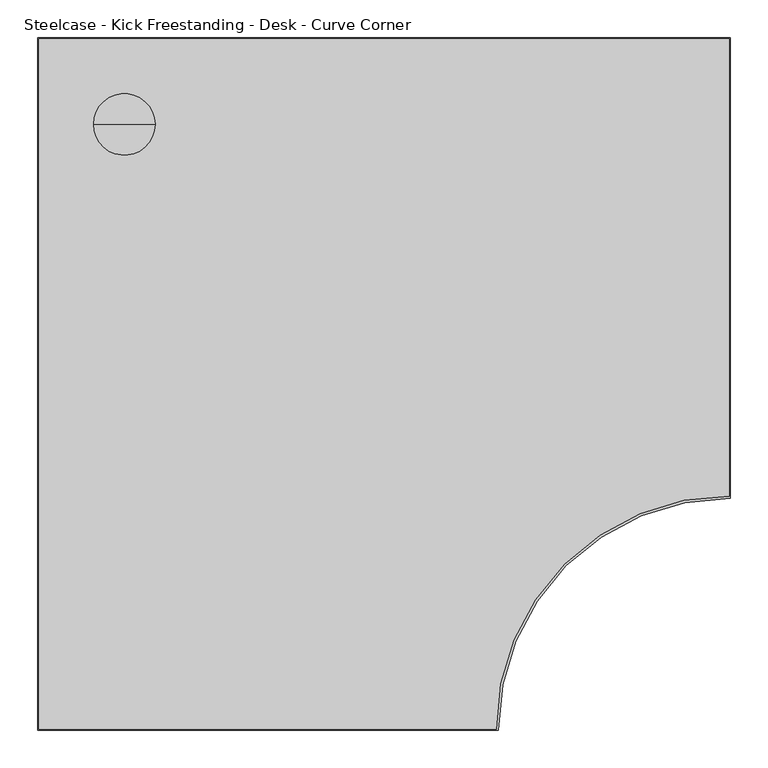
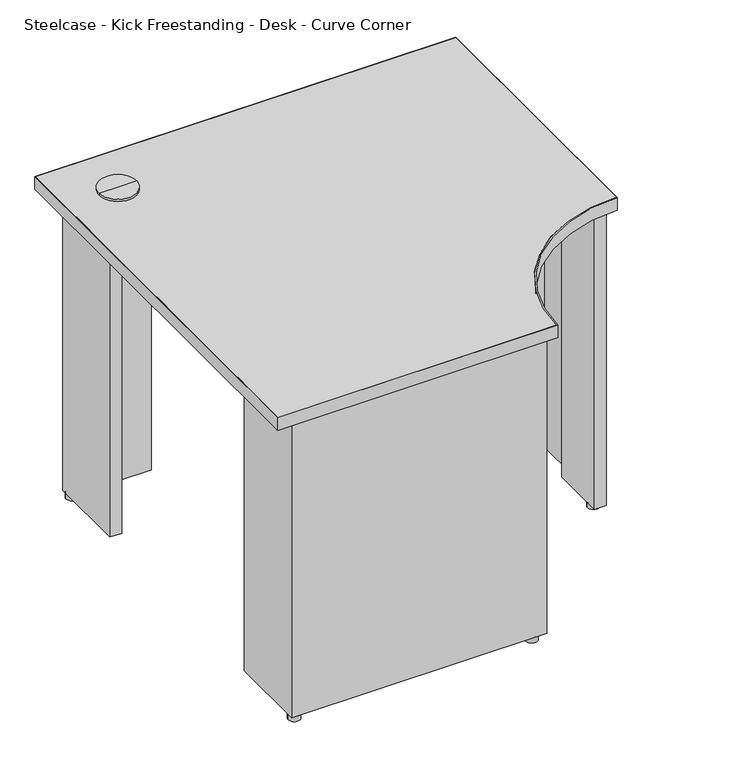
"""IFC4 building model written with IfcOpenShell, lengths in millimetres: furniture geometry, Steelcase - Kick Freestanding - Desk - Curve Corner : 24D x 36W - Two Full Panel - LPL."""

from ifc_helpers import new_model, si_unit, point, frame, frame_2d, origin, origin_with_axes, place, context, project, spatial, polyline, circle_curve, trimmed, segment, composite_curve, outline, extrude, source, transform, mapped, element, save
from ifc_brep_helpers import plane_surface, cylinder_surface, advanced_brep


def steelcase_kick_freestanding_desk_curve_corner_7b6e4ea2(model_context):
    return source(origin(), model_context, "Body", "SolidModel", [
        extrude(outline(composite_curve([segment(trimmed(circle_curve(frame_2d((886.4853521, -565.8064761)), 12.7), [point((873.7853521, -565.8064761))], [point((899.1853521, -565.8064761))], False, "CARTESIAN"), True, "CONTINUOUS"), segment(trimmed(circle_curve(frame_2d((886.4853521, -565.8064761)), 12.7), [point((899.1853521, -565.8064761))], [point((873.7853521, -565.8064761))], False, "CARTESIAN"), True, "CONTINUOUS")], self_intersect=False)), origin_with_axes(), (0.0, 0.0, 1.0), 12.446),
        extrude(outline(composite_curve([segment(trimmed(circle_curve(frame_2d((566.7971133, -887.4759893)), 12.7), [point((554.0971133, -887.4759893))], [point((579.4971133, -887.4759893))], False, "CARTESIAN"), True, "CONTINUOUS"), segment(trimmed(circle_curve(frame_2d((566.7971133, -887.4759893)), 12.7), [point((579.4971133, -887.4759893))], [point((554.0971133, -887.4759893))], False, "CARTESIAN"), True, "CONTINUOUS")], self_intersect=False)), origin_with_axes(), (0.0, 0.0, 1.0), 12.446),
        extrude(outline(polyline([(215.8999939, -63.5), (63.5, -63.5), (63.5, -215.8999939), (38.1, -215.8999939), (38.1, -38.1), (215.8999939, -38.1), (215.8999939, -63.5)])), frame((0.0, 0.0, 12.446), z_axis=(0.0, 0.0, 1.0), x_axis=(1.0, 0.0, 0.0)), (0.0, 0.0, 1.0), 682.498),
        extrude(outline(polyline([(63.5, -722.6300194), (63.5, -875.0300194), (161.3662, -875.0300194), (161.3662, -894.6895822), (261.0866, -894.6895822), (261.0866, -875.0300194), (369.824, -875.0300194), (369.824, -894.6895822), (469.5444, -894.6895822), (469.5444, -875.0300194), (592.582, -875.0300194), (592.582, -900.4299952), (38.1, -900.4299952), (38.1, -722.6300194), (63.5, -722.6300194)])), frame((0.0, 0.0, 12.446), z_axis=(0.0, 0.0, 1.0), x_axis=(1.0, 0.0, 0.0)), (0.0, 0.0, 1.0), 682.498),
        extrude(outline(polyline([(721.6393822, -63.5), (721.6393822, -38.1), (899.4393579, -38.1), (899.4393579, -592.582), (873.5313463, -592.582), (873.5313463, -469.5444), (893.698945, -469.5444), (893.698945, -369.824), (873.5313463, -369.824), (873.5313463, -261.0866), (893.698945, -261.0866), (893.698945, -161.3662), (873.5313463, -161.3662), (873.5313463, -63.5), (721.6393822, -63.5)])), frame((0.0, 0.0, 12.446), z_axis=(0.0, 0.0, 1.0), x_axis=(1.0, 0.0, 0.0)), (0.0, 0.0, 1.0), 682.498),
        advanced_brep(
        [(114.3, -114.3, 728.98), (154.94, -114.3, 728.98), (73.66, -114.3, 728.98), (76.1699693, -114.3, 694.944), (152.4300307, -114.3, 694.944), (114.3, -114.3, 694.944), (76.1699693, -114.3, 723.9), (152.4300307, -114.3, 723.9), (73.66, -114.3, 723.9), (154.94, -114.3, 723.9)],
        [
            (0, 1),
            (1, 2, circle_curve(frame((114.3, -114.3, 728.98), z_axis=(0.0, 0.0, 1.0), x_axis=(1.0, 0.0, 0.0)), 40.64)),
            (2, 0),
            (2, 1, circle_curve(frame((114.3, -114.3, 728.98), z_axis=(0.0, 0.0, 1.0), x_axis=(1.0, 0.0, 0.0)), 40.64)),
            (3, 4, circle_curve(frame((114.3, -114.3, 694.944), z_axis=(0.0, 0.0, -1.0), x_axis=(1.0, 0.0, 0.0)), 38.1300307)),
            (4, 5),
            (5, 3),
            (4, 3, circle_curve(frame((114.3, -114.3, 694.944), z_axis=(0.0, 0.0, -1.0), x_axis=(1.0, 0.0, 0.0)), 38.1300307)),
            (6, 7, circle_curve(frame((114.3, -114.3, 723.9), z_axis=(0.0, 0.0, -1.0), x_axis=(1.0, 0.0, 0.0)), 38.1300307)),
            (7, 4),
            (3, 6),
            (7, 6, circle_curve(frame((114.3, -114.3, 723.9), z_axis=(0.0, 0.0, -1.0), x_axis=(1.0, 0.0, 0.0)), 38.1300307)),
            (8, 9, circle_curve(frame((114.3, -114.3, 723.9), z_axis=(0.0, 0.0, -1.0), x_axis=(1.0, 0.0, 0.0)), 40.64)),
            (9, 7),
            (6, 8),
            (9, 8, circle_curve(frame((114.3, -114.3, 723.9), z_axis=(0.0, 0.0, -1.0), x_axis=(1.0, 0.0, 0.0)), 40.64)),
            (1, 9),
            (8, 2),
        ],
        [
            plane_surface(frame((114.3, -114.3, 728.98), z_axis=(0.0, 0.0, 1.0), x_axis=(1.0, 0.0, 0.0))),
            plane_surface(frame((114.3, -114.3, 694.944), z_axis=(0.0, 0.0, -1.0), x_axis=(1.0, 0.0, 0.0))),
            cylinder_surface(frame((114.3, -114.3, 728.98), z_axis=(0.0, 0.0, 1.0), x_axis=(1.0, 0.0, 0.0)), 38.1300307),
            plane_surface(frame((114.3, -114.3, 723.9), z_axis=(0.0, 0.0, -1.0), x_axis=(1.0, 0.0, 0.0))),
            cylinder_surface(frame((114.3, -114.3, 728.98), z_axis=(0.0, 0.0, 1.0), x_axis=(1.0, 0.0, 0.0)), 40.64),
        ],
        [
            (0, [[1, 2, 3]]),
            (0, [[-3, 4, -1]]),
            (1, [[5, 6, 7]]),
            (1, [[8, -7, -6]]),
            (2, [[9, 10, -5, 11]]),
            (2, [[12, -11, -8, -10]]),
            (3, [[13, 14, -9, 15]]),
            (3, [[16, -15, -12, -14]]),
            (4, [[-2, 17, -13, 18]]),
            (4, [[-4, -18, -16, -17]]),
        ],
    ),
        extrude(outline(composite_curve([segment(trimmed(circle_curve(frame_2d((50.8, -50.8)), 12.7), [point((38.1, -50.8))], [point((63.5, -50.8))], False, "CARTESIAN"), True, "CONTINUOUS"), segment(trimmed(circle_curve(frame_2d((50.8, -50.8)), 12.7), [point((63.5, -50.8))], [point((38.1, -50.8))], False, "CARTESIAN"), True, "CONTINUOUS")], self_intersect=False)), origin_with_axes(), (0.0, 0.0, 1.0), 12.446),
        extrude(outline(composite_curve([segment(trimmed(circle_curve(frame_2d((50.8, -887.7300073)), 12.7484998), [point((38.0515002, -887.7300073))], [point((63.5484998, -887.7300073))], False, "CARTESIAN"), True, "CONTINUOUS"), segment(trimmed(circle_curve(frame_2d((50.8, -887.7300073)), 12.7484998), [point((63.5484998, -887.7300073))], [point((38.0515002, -887.7300073))], False, "CARTESIAN"), True, "CONTINUOUS")], self_intersect=False)), origin_with_axes(), (0.0, 0.0, 1.0), 12.446),
        extrude(outline(composite_curve([segment(trimmed(circle_curve(frame_2d((886.4853521, -50.8)), 12.7), [point((873.7853521, -50.8))], [point((899.1853521, -50.8))], False, "CARTESIAN"), True, "CONTINUOUS"), segment(trimmed(circle_curve(frame_2d((886.4853521, -50.8)), 12.7), [point((899.1853521, -50.8))], [point((873.7853521, -50.8))], False, "CARTESIAN"), True, "CONTINUOUS")], self_intersect=False)), origin_with_axes(), (0.0, 0.0, 1.0), 12.446),
        extrude(outline(composite_curve([segment(polyline([(0.9906, -913.4093628), (0.9906, -0.9906), (913.4093628, -0.9906), (913.4093628, -605.3354109)]), True, "CONTINUOUS"), segment(trimmed(circle_curve(frame_2d((912.1393458, -912.1393458)), 306.8065636), [point((913.4093628, -605.3354109))], [point((605.3354109, -913.4093628))], True, "CARTESIAN"), True, "CONTINUOUS"), segment(polyline([(605.3354109, -913.4093628), (0.9906, -913.4093628)]), True, "CONTINUOUS")], self_intersect=False)), frame((0.0, 0.0, 694.944), z_axis=(0.0, 0.0, 1.0), x_axis=(1.0, 0.0, 0.0)), (0.0, 0.0, 1.0), 28.956),
        extrude(outline(composite_curve([segment(polyline([(914.4, 0.0), (914.4, -608.332629)]), True, "CONTINUOUS"), segment(trimmed(circle_curve(frame_2d((913.129983, -913.129983)), 304.8), [point((914.4, -608.332629))], [point((608.332629, -914.4))], True, "CARTESIAN"), True, "CONTINUOUS"), segment(polyline([(608.332629, -914.4), (0.0, -914.4), (0.0, 0.0), (914.4, 0.0)]), True, "CONTINUOUS")], self_intersect=False), holes=[composite_curve([segment(polyline([(913.4093628, -0.9906), (0.9906, -0.9906), (0.9906, -913.4093628), (605.3354109, -913.4093628)]), True, "CONTINUOUS"), segment(trimmed(circle_curve(frame_2d((912.1393458, -912.1393458)), 306.8065636), [point((605.3354109, -913.4093628))], [point((913.4093628, -605.3354109))], False, "CARTESIAN"), True, "CONTINUOUS"), segment(polyline([(913.4093628, -605.3354109), (913.4093628, -0.9906)]), True, "CONTINUOUS")], self_intersect=False)]), frame((0.0, 0.0, 694.944), z_axis=(0.0, 0.0, 1.0), x_axis=(1.0, 0.0, 0.0)), (0.0, 0.0, 1.0), 28.956),
    ])


if __name__ == "__main__":
    model = new_model("IFC4")
    model_context = context("Model", 3, world=origin())
    ifc_project = project(units=[si_unit("LENGTHUNIT", "METRE", prefix="MILLI")], contexts=[model_context])
    site = spatial("IfcSite", under=ifc_project)
    building = spatial("IfcBuilding", under=site)
    placement = place(None, origin())
    steelcase_kick_freestanding_desk_curve_corner_shape = steelcase_kick_freestanding_desk_curve_corner_7b6e4ea2(model_context)
    element("IfcFurniture", 1, ObjectType="Steelcase - Kick Freestanding - Desk - Curve Corner : 24D x 36W - Two Full Panel - LPL", at=placement, inside=building, context=model_context, shape_type="MappedRepresentation", body=[
        mapped(steelcase_kick_freestanding_desk_curve_corner_shape, transform((0.0, 0.0, 0.0), x_axis=(1.0, 0.0, 0.0), y_axis=(0.0, 1.0, 0.0), z_axis=(0.0, 0.0, 1.0))),
    ])
    save(model, "model.ifc")
